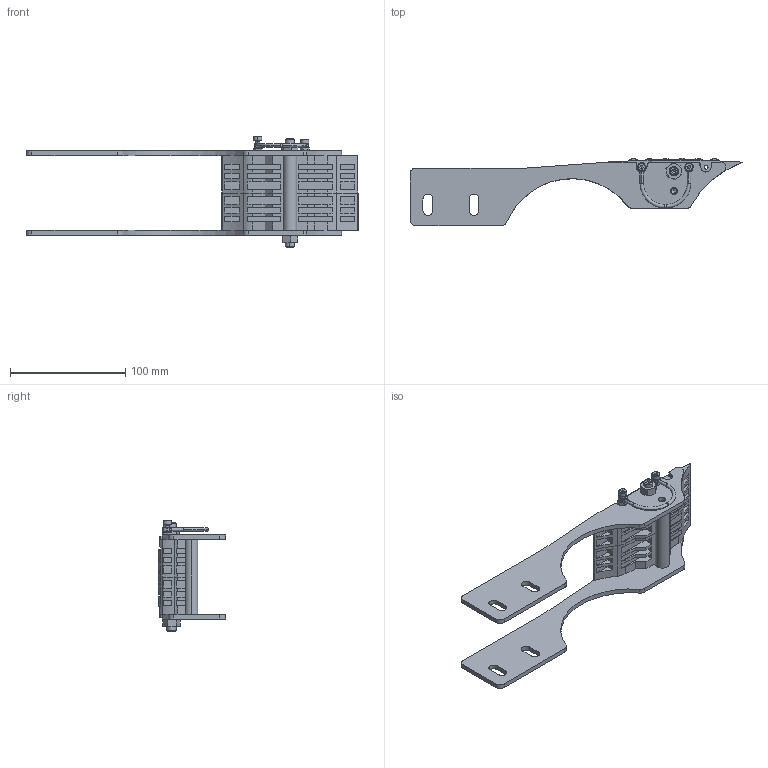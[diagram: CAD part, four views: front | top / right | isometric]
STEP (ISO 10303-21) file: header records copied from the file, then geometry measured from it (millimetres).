
FILE_DESCRIPTION (( 'STEP AP214' ), '1' );
FILE_NAME ('FSTB A65.step', '2017-04-07T11:10:07', ( '' ), ( '' ), 'SwSTEP 2.0', 'SolidWorks 2016', '' );
FILE_SCHEMA (( 'AUTOMOTIVE_DESIGN' ));
Length unit declared in the file: millimetre
Products named in the file (1): FSTB A65
Bounding box: 288.09 x 58.26 x 96.77 mm (x, y, z)
Surface area: 102112.7 mm2 (no closed solid volume)
Topology: 0 solids, 53 shells, 1662 faces, 4274 edges, 2774 vertices
Faces by surface type: plane 710, cylinder 448, torus 380, cone 108, bspline 12, sphere 4
Entity records: 75000 total; most frequent: CARTESIAN_POINT 14367, DIRECTION 9332, ORIENTED_EDGE 8496, EDGE_CURVE 4250, AXIS2_PLACEMENT_3D 3775, VERTEX_POINT 2774, CIRCLE 2124, EDGE_LOOP 1870
